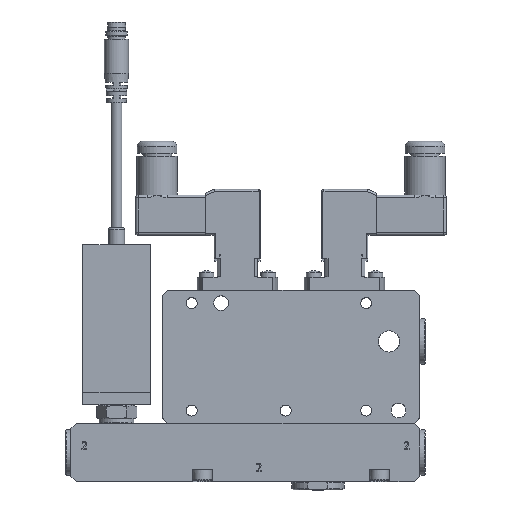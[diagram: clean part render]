
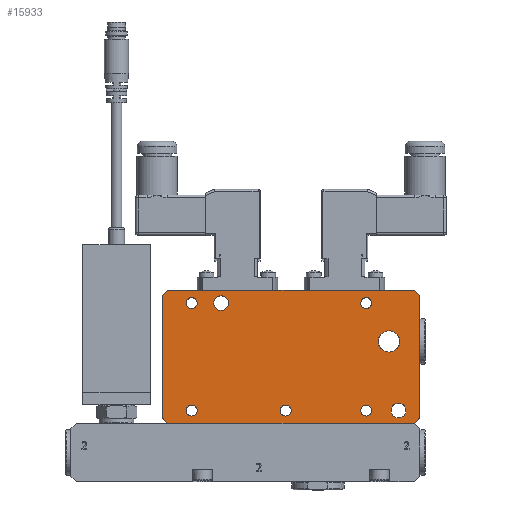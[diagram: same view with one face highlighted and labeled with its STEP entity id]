
A CAD part, top view. The second image highlights one B-rep face of the part: STEP entity #15933.
In plain terms, the highlighted planar face has unit normal (0, 0, 1).
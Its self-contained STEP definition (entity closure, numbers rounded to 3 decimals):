
#413=FACE_BOUND('',#2869,.T.);
#414=FACE_BOUND('',#2870,.T.);
#415=FACE_BOUND('',#2871,.T.);
#416=FACE_BOUND('',#2872,.T.);
#417=FACE_BOUND('',#2873,.T.);
#418=FACE_BOUND('',#2874,.T.);
#419=FACE_BOUND('',#2875,.T.);
#420=FACE_BOUND('',#2876,.T.);
#575=PLANE('',#17309);
#1928=FACE_OUTER_BOUND('',#2868,.T.);
#2868=EDGE_LOOP('',(#11219,#11220,#11221,#11222,#11223,#11224,#11225,#11226));
#2869=EDGE_LOOP('',(#11227));
#2870=EDGE_LOOP('',(#11228));
#2871=EDGE_LOOP('',(#11229));
#2872=EDGE_LOOP('',(#11230));
#2873=EDGE_LOOP('',(#11231));
#2874=EDGE_LOOP('',(#11232));
#2875=EDGE_LOOP('',(#11233));
#2876=EDGE_LOOP('',(#11234));
#4291=LINE('',#22713,#5599);
#4292=LINE('',#22715,#5600);
#4293=LINE('',#22717,#5601);
#4294=LINE('',#22719,#5602);
#4295=LINE('',#22721,#5603);
#4296=LINE('',#22723,#5604);
#4297=LINE('',#22725,#5605);
#4298=LINE('',#22726,#5606);
#5599=VECTOR('',#18705,10.);
#5600=VECTOR('',#18706,10.);
#5601=VECTOR('',#18707,10.);
#5602=VECTOR('',#18708,10.);
#5603=VECTOR('',#18709,10.);
#5604=VECTOR('',#18710,10.);
#5605=VECTOR('',#18711,10.);
#5606=VECTOR('',#18712,10.);
#6916=CIRCLE('',#17300,2.05);
#6917=CIRCLE('',#17302,2.05);
#6918=CIRCLE('',#17304,2.05);
#6919=CIRCLE('',#17306,2.05);
#6920=CIRCLE('',#17308,2.05);
#6921=CIRCLE('',#17310,2.75);
#6922=CIRCLE('',#17311,2.75);
#6923=CIRCLE('',#17312,4.);
#7417=VERTEX_POINT('',#22691);
#7418=VERTEX_POINT('',#22695);
#7419=VERTEX_POINT('',#22699);
#7420=VERTEX_POINT('',#22703);
#7421=VERTEX_POINT('',#22707);
#7422=VERTEX_POINT('',#22711);
#7423=VERTEX_POINT('',#22712);
#7424=VERTEX_POINT('',#22714);
#7425=VERTEX_POINT('',#22716);
#7426=VERTEX_POINT('',#22718);
#7427=VERTEX_POINT('',#22720);
#7428=VERTEX_POINT('',#22722);
#7429=VERTEX_POINT('',#22724);
#7430=VERTEX_POINT('',#22727);
#7431=VERTEX_POINT('',#22729);
#7432=VERTEX_POINT('',#22731);
#8906=EDGE_CURVE('',#7417,#7417,#6916,.T.);
#8908=EDGE_CURVE('',#7418,#7418,#6917,.T.);
#8910=EDGE_CURVE('',#7419,#7419,#6918,.T.);
#8912=EDGE_CURVE('',#7420,#7420,#6919,.T.);
#8914=EDGE_CURVE('',#7421,#7421,#6920,.T.);
#8916=EDGE_CURVE('',#7422,#7423,#4291,.T.);
#8917=EDGE_CURVE('',#7422,#7424,#4292,.T.);
#8918=EDGE_CURVE('',#7425,#7424,#4293,.T.);
#8919=EDGE_CURVE('',#7425,#7426,#4294,.T.);
#8920=EDGE_CURVE('',#7427,#7426,#4295,.T.);
#8921=EDGE_CURVE('',#7427,#7428,#4296,.T.);
#8922=EDGE_CURVE('',#7429,#7428,#4297,.T.);
#8923=EDGE_CURVE('',#7429,#7423,#4298,.T.);
#8924=EDGE_CURVE('',#7430,#7430,#6921,.T.);
#8925=EDGE_CURVE('',#7431,#7431,#6922,.T.);
#8926=EDGE_CURVE('',#7432,#7432,#6923,.T.);
#11219=ORIENTED_EDGE('',*,*,#8916,.F.);
#11220=ORIENTED_EDGE('',*,*,#8917,.T.);
#11221=ORIENTED_EDGE('',*,*,#8918,.F.);
#11222=ORIENTED_EDGE('',*,*,#8919,.T.);
#11223=ORIENTED_EDGE('',*,*,#8920,.F.);
#11224=ORIENTED_EDGE('',*,*,#8921,.T.);
#11225=ORIENTED_EDGE('',*,*,#8922,.F.);
#11226=ORIENTED_EDGE('',*,*,#8923,.T.);
#11227=ORIENTED_EDGE('',*,*,#8924,.T.);
#11228=ORIENTED_EDGE('',*,*,#8925,.T.);
#11229=ORIENTED_EDGE('',*,*,#8906,.T.);
#11230=ORIENTED_EDGE('',*,*,#8908,.T.);
#11231=ORIENTED_EDGE('',*,*,#8910,.T.);
#11232=ORIENTED_EDGE('',*,*,#8912,.T.);
#11233=ORIENTED_EDGE('',*,*,#8914,.T.);
#11234=ORIENTED_EDGE('',*,*,#8926,.T.);
#15933=ADVANCED_FACE('',(#1928,#413,#414,#415,#416,#417,#418,#419,#420),
#575,.T.);
#17300=AXIS2_PLACEMENT_3D('',#22692,#18680,#18681);
#17302=AXIS2_PLACEMENT_3D('',#22696,#18685,#18686);
#17304=AXIS2_PLACEMENT_3D('',#22700,#18690,#18691);
#17306=AXIS2_PLACEMENT_3D('',#22704,#18695,#18696);
#17308=AXIS2_PLACEMENT_3D('',#22708,#18700,#18701);
#17309=AXIS2_PLACEMENT_3D('',#22710,#18703,#18704);
#17310=AXIS2_PLACEMENT_3D('',#22728,#18713,#18714);
#17311=AXIS2_PLACEMENT_3D('',#22730,#18715,#18716);
#17312=AXIS2_PLACEMENT_3D('',#22732,#18717,#18718);
#18680=DIRECTION('center_axis',(0.,0.,
-1.));
#18681=DIRECTION('ref_axis',(1.,0.,0.));
#18685=DIRECTION('center_axis',(0.,0.,
-1.));
#18686=DIRECTION('ref_axis',(1.,0.,0.));
#18690=DIRECTION('center_axis',(0.,0.,
-1.));
#18691=DIRECTION('ref_axis',(1.,0.,0.));
#18695=DIRECTION('center_axis',(0.,0.,
-1.));
#18696=DIRECTION('ref_axis',(1.,0.,0.));
#18700=DIRECTION('center_axis',(0.,0.,
-1.));
#18701=DIRECTION('ref_axis',(1.,0.,0.));
#18703=DIRECTION('center_axis',(0.,0.,
1.));
#18704=DIRECTION('ref_axis',(1.,0.,0.));
#18705=DIRECTION('',(-0.707,-0.707,0.));
#18706=DIRECTION('',(0.,1.,0.));
#18707=DIRECTION('',(0.707,-0.707,0.));
#18708=DIRECTION('',(-1.,0.,0.));
#18709=DIRECTION('',(0.707,0.707,0.));
#18710=DIRECTION('',(0.,-1.,0.));
#18711=DIRECTION('',(-0.707,0.707,0.));
#18712=DIRECTION('',(1.,0.,0.));
#18713=DIRECTION('center_axis',(0.,0.,
-1.));
#18714=DIRECTION('ref_axis',(-1.,0.,0.));
#18715=DIRECTION('center_axis',(0.,0.,
-1.));
#18716=DIRECTION('ref_axis',(-1.,0.,0.));
#18717=DIRECTION('center_axis',(0.,0.,
-1.));
#18718=DIRECTION('ref_axis',(1.,0.,0.));
#22691=CARTESIAN_POINT('',(-8.288,42.299,18.089));
#22692=CARTESIAN_POINT('Origin',(-6.238,42.299,18.089));
#22695=CARTESIAN_POINT('',(26.712,2.299,18.089));
#22696=CARTESIAN_POINT('Origin',(28.762,2.299,18.089));
#22699=CARTESIAN_POINT('',(56.712,2.299,18.089));
#22700=CARTESIAN_POINT('Origin',(58.762,2.299,18.089));
#22703=CARTESIAN_POINT('',(-8.288,2.299,18.089));
#22704=CARTESIAN_POINT('Origin',(-6.238,2.299,18.089));
#22707=CARTESIAN_POINT('',(56.712,42.299,18.089));
#22708=CARTESIAN_POINT('Origin',(58.762,42.299,18.089));
#22710=CARTESIAN_POINT('Origin',(30.762,22.299,18.089));
#22711=CARTESIAN_POINT('',(78.762,-0.451,18.089));
#22712=CARTESIAN_POINT('',(76.762,-2.451,18.089));
#22713=CARTESIAN_POINT('',(71.949,-7.264,18.089));
#22714=CARTESIAN_POINT('',(78.762,45.049,18.089));
#22715=CARTESIAN_POINT('',(78.762,47.049,18.089));
#22716=CARTESIAN_POINT('',(76.762,47.049,18.089));
#22717=CARTESIAN_POINT('',(71.949,51.861,18.089));
#22718=CARTESIAN_POINT('',(-15.238,47.049,18.089));
#22719=CARTESIAN_POINT('',(-17.238,47.049,18.089));
#22720=CARTESIAN_POINT('',(-17.238,45.049,18.089));
#22721=CARTESIAN_POINT('',(-10.426,51.861,18.089));
#22722=CARTESIAN_POINT('',(-17.238,-0.451,18.089));
#22723=CARTESIAN_POINT('',(-17.238,-2.451,18.089));
#22724=CARTESIAN_POINT('',(-15.238,-2.451,18.089));
#22725=CARTESIAN_POINT('',(-10.426,-7.264,18.089));
#22726=CARTESIAN_POINT('',(78.762,-2.451,18.089));
#22727=CARTESIAN_POINT('',(2.012,42.299,18.089));
#22728=CARTESIAN_POINT('Origin',(4.762,42.299,18.089));
#22729=CARTESIAN_POINT('',(68.012,2.299,18.089));
#22730=CARTESIAN_POINT('Origin',(70.762,2.299,18.089));
#22731=CARTESIAN_POINT('',(63.262,28.049,18.089));
#22732=CARTESIAN_POINT('Origin',(67.262,28.049,18.089));
